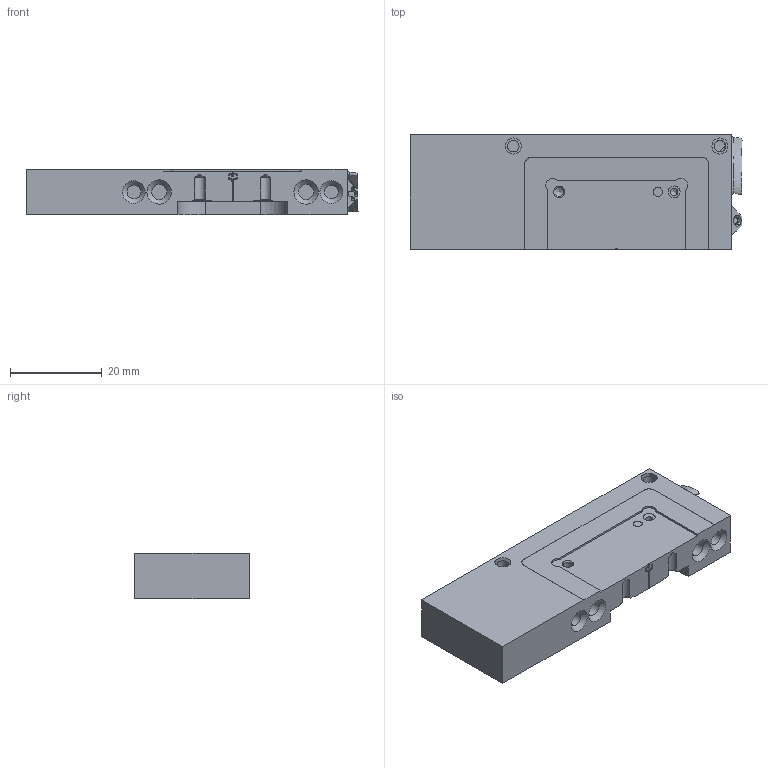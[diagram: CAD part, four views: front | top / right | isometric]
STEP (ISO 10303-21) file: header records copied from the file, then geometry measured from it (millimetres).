
FILE_DESCRIPTION(/* description */ (''),/* implementation_level */ '2;1');
FILE_NAME(/* name */ 'PieceTest.stp',/* time_stamp */ '2026-03-27T07:36:49+01:00',/* author */ ('xmorvan'),/* organization */ ('Unknown'),/* preprocessor_version */ 'ST-DEVELOPER v20.1',/* originating_system */ 'Autodesk Manufacturing Data Exchange Utility2026.0.2.921202',/* authorisation */ '');
FILE_SCHEMA (('AUTOMOTIVE_DESIGN { 1 0 10303 214 3 1 1 }'));
Length unit declared in the file: millimetre
Products named in the file (1): partANN::DOCUMENT
Bounding box: 72.3 x 25 x 9.8 mm (x, y, z)
Volume: 15523.1 mm3; surface area: 6236 mm2
Topology: 1 solids, 1 shells, 200 faces, 584 edges, 393 vertices
Faces by surface type: plane 92, cylinder 73, cone 29, bspline 6
Full cylindrical faces by diameter (mm): 1.55 x1, 1.6 x1, 1.65 x1, 2 x2, 2.35 x1, 2.5 x2, 3 x2, 3.3 x2
Entity records: 16851 total; most frequent: CARTESIAN_POINT 11457, ORIENTED_EDGE 1148, DIRECTION 1120, EDGE_CURVE 574, VERTEX_POINT 393, AXIS2_PLACEMENT_3D 392, LINE 336, VECTOR 336
